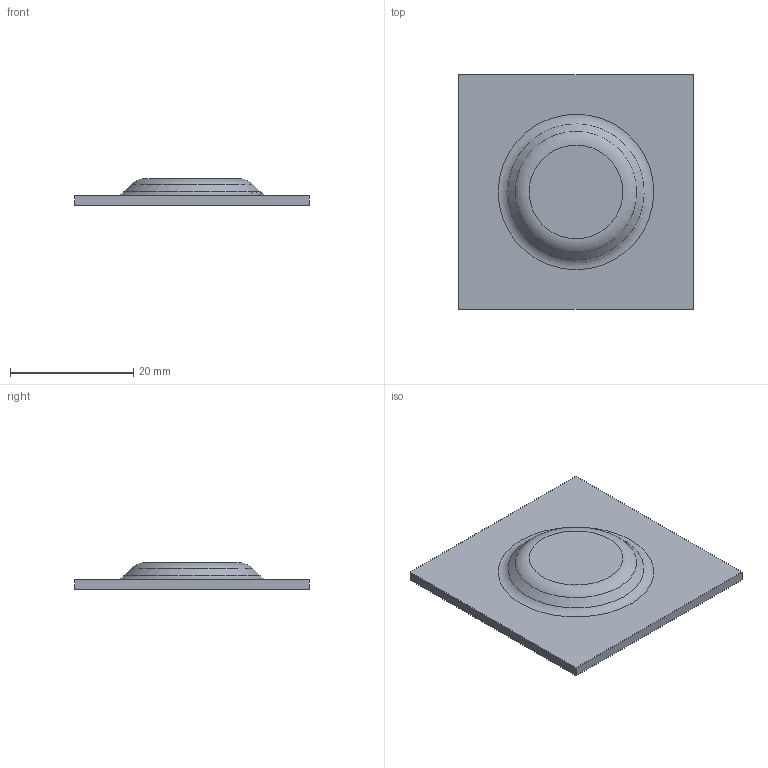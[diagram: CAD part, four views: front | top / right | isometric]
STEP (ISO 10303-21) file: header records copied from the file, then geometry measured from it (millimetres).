
FILE_DESCRIPTION((''),'1');
FILE_NAME('C:/Users/ericfrey.TRIAX/Documents/Desktop/407-5818-00 REV 01 DIMPLE UP.stp', '2014-04-01T18:57:31',(''), (''), 'KCM Version 1.1.967.0', 'Kubotek KeyCreator', '');
FILE_SCHEMA(('AUTOMOTIVE_DESIGN'));
Length unit declared in the file: inch
Bounding box: 38.1 x 38.1 x 4.37 mm (x, y, z)
Volume: 2377.2 mm3; surface area: 3259.1 mm2
Topology: 1 solids, 1 shells, 14 faces, 32 edges, 22 vertices
Faces by surface type: plane 8, torus 4, cone 2
Entity records: 405 total; most frequent: DIRECTION 68, ORIENTED_EDGE 64, CARTESIAN_POINT 63, EDGE_CURVE 32, AXIS2_PLACEMENT_3D 27, VERTEX_POINT 22, EDGE_LOOP 16, VECTOR 14
